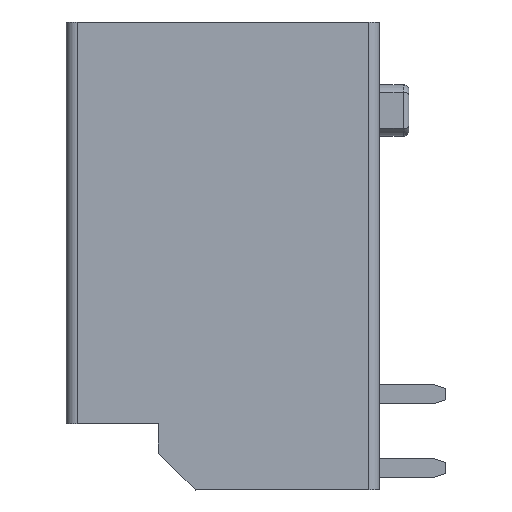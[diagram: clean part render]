
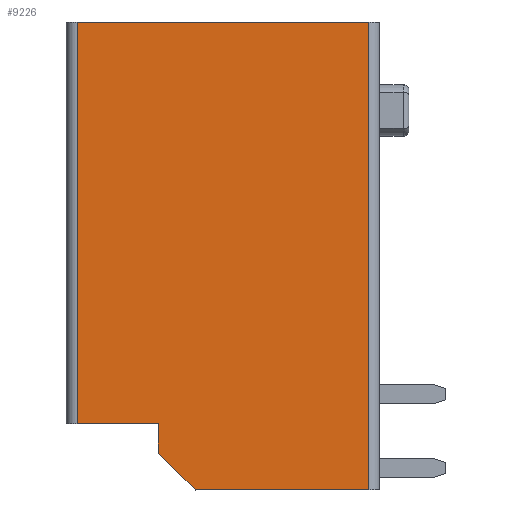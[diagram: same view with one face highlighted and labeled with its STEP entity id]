
A CAD part, left-side view. The second image highlights one B-rep face of the part: STEP entity #9226.
In plain terms, the highlighted planar face has unit normal (-1, 0, 0).
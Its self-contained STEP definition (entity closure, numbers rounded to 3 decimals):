
#2330=DIRECTION('',(0.,1.,0.));
#2331=VECTOR('',#2330,2.2);
#2332=CARTESIAN_POINT('',(-7.,6.,-4.55));
#2333=LINE('',#2332,#2331);
#2334=DIRECTION('',(0.,0.,1.));
#2335=VECTOR('',#2334,10.9);
#2336=CARTESIAN_POINT('',(-7.,8.2,-4.55));
#2337=LINE('',#2336,#2335);
#2338=DIRECTION('',(0.,-1.,0.));
#2339=VECTOR('',#2338,7.9);
#2340=CARTESIAN_POINT('',(-7.,8.2,6.35));
#2341=LINE('',#2340,#2339);
#2342=DIRECTION('',(0.,0.707,0.707));
#2343=VECTOR('',#2342,1.414);
#2344=CARTESIAN_POINT('',(-7.,5.,-6.35));
#2345=LINE('',#2344,#2343);
#2350=DIRECTION('',(0.,0.,1.));
#2351=VECTOR('',#2350,12.7);
#2352=CARTESIAN_POINT('',(-7.,0.3,-6.35));
#2353=LINE('',#2352,#2351);
#2354=DIRECTION('',(0.,-1.,0.));
#2355=VECTOR('',#2354,4.7);
#2356=CARTESIAN_POINT('',(-7.,5.,-6.35));
#2357=LINE('',#2356,#2355);
#2391=DIRECTION('',(0.,0.,-1.));
#2392=VECTOR('',#2391,0.8);
#2393=CARTESIAN_POINT('',(-7.,6.,-4.55));
#2394=LINE('',#2393,#2392);
#4576=CARTESIAN_POINT('',(-7.,0.3,6.35));
#4577=VERTEX_POINT('',#4576);
#4578=CARTESIAN_POINT('',(-7.,8.2,6.35));
#4580=VERTEX_POINT('',#4578);
#4712=CARTESIAN_POINT('',(-7.,8.2,-4.55));
#4713=VERTEX_POINT('',#4712);
#4714=CARTESIAN_POINT('',(-7.,6.,-4.55));
#4715=VERTEX_POINT('',#4714);
#4716=CARTESIAN_POINT('',(-7.,5.,-6.35));
#4717=CARTESIAN_POINT('',(-7.,0.3,-6.35));
#4718=VERTEX_POINT('',#4716);
#4719=VERTEX_POINT('',#4717);
#4720=CARTESIAN_POINT('',(-7.,6.,-5.35));
#4721=VERTEX_POINT('',#4720);
#9208=CARTESIAN_POINT('',(-7.,4.25,0.));
#9209=DIRECTION('',(1.,0.,0.));
#9210=DIRECTION('',(0.,-1.,0.));
#9211=AXIS2_PLACEMENT_3D('',#9208,#9209,#9210);
#9212=PLANE('',#9211);
#9213=ORIENTED_EDGE('',*,*,#9157,.T.);
#9214=ORIENTED_EDGE('',*,*,#9203,.T.);
#9215=ORIENTED_EDGE('',*,*,#6519,.T.);
#9217=ORIENTED_EDGE('',*,*,#9216,.F.);
#9219=ORIENTED_EDGE('',*,*,#9218,.F.);
#9221=ORIENTED_EDGE('',*,*,#9220,.T.);
#9223=ORIENTED_EDGE('',*,*,#9222,.F.);
#9224=EDGE_LOOP('',(#9213,#9214,#9215,#9217,#9219,#9221,#9223));
#9225=FACE_OUTER_BOUND('',#9224,.F.);
#6519=EDGE_CURVE('',#4580,#4577,#2341,.T.);
#9157=EDGE_CURVE('',#4715,#4713,#2333,.T.);
#9203=EDGE_CURVE('',#4713,#4580,#2337,.T.);
#9216=EDGE_CURVE('',#4719,#4577,#2353,.T.);
#9218=EDGE_CURVE('',#4718,#4719,#2357,.T.);
#9220=EDGE_CURVE('',#4718,#4721,#2345,.T.);
#9222=EDGE_CURVE('',#4715,#4721,#2394,.T.);
#9226=ADVANCED_FACE('',(#9225),#9212,.F.);
